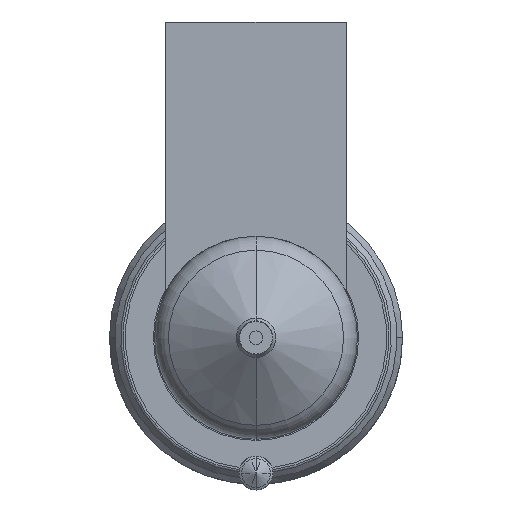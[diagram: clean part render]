
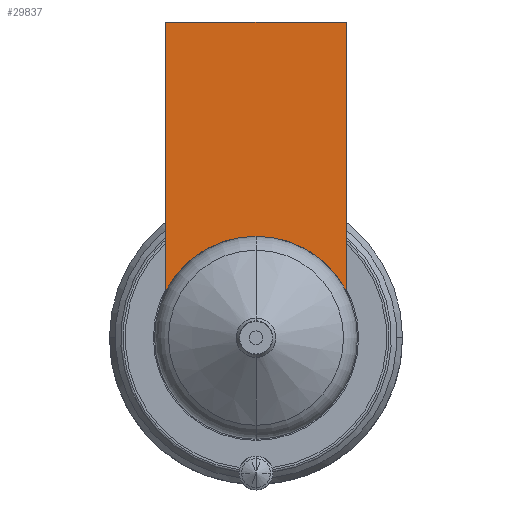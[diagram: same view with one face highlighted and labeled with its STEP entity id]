
A CAD part, front view. The second image highlights one B-rep face of the part: STEP entity #29837.
In plain terms, the highlighted planar face has unit normal (0, -1, 0).
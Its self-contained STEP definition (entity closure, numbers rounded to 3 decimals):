
#29178=DIRECTION('',(1.,0.,0.));
#29179=VECTOR('',#29178,16.);
#29180=CARTESIAN_POINT('',(-8.,-54.,28.));
#29181=LINE('',#29180,#29179);
#29186=CARTESIAN_POINT('',(0.,-54.,0.));
#29187=DIRECTION('',(0.,-1.,0.));
#29188=DIRECTION('',(0.889,0.,0.458));
#29189=AXIS2_PLACEMENT_3D('',#29186,#29187,#29188);
#29194=CARTESIAN_POINT('',(0.,-54.,0.));
#29195=DIRECTION('',(0.,-1.,0.));
#29196=DIRECTION('',(0.,0.,1.));
#29197=AXIS2_PLACEMENT_3D('',#29194,#29195,#29196);
#29223=DIRECTION('',(0.,0.,-1.));
#29224=VECTOR('',#29223,23.877);
#29225=CARTESIAN_POINT('',(-8.,-54.,28.));
#29226=LINE('',#29225,#29224);
#29709=DIRECTION('',(0.,0.,-1.));
#29710=VECTOR('',#29709,23.877);
#29711=CARTESIAN_POINT('',(8.,-54.,28.));
#29712=LINE('',#29711,#29710);
#29762=CARTESIAN_POINT('',(-8.,-54.,28.));
#29763=VERTEX_POINT('',#29762);
#29768=CARTESIAN_POINT('',(8.,-54.,28.));
#29769=VERTEX_POINT('',#29768);
#29772=CARTESIAN_POINT('',(-8.,-54.,4.123));
#29773=VERTEX_POINT('',#29772);
#29776=CARTESIAN_POINT('',(8.,-54.,4.123));
#29777=VERTEX_POINT('',#29776);
#29818=CARTESIAN_POINT('',(0.,-54.,9.));
#29819=VERTEX_POINT('',#29818);
#29820=CARTESIAN_POINT('',(0.,-54.,9.));
#29821=DIRECTION('',(0.,1.,0.));
#29822=DIRECTION('',(0.,0.,-1.));
#29823=AXIS2_PLACEMENT_3D('',#29820,#29821,#29822);
#29824=PLANE('',#29823);
#29826=ORIENTED_EDGE('',*,*,#29825,.F.);
#29828=ORIENTED_EDGE('',*,*,#29827,.T.);
#29830=ORIENTED_EDGE('',*,*,#29829,.T.);
#29832=ORIENTED_EDGE('',*,*,#29831,.T.);
#29834=ORIENTED_EDGE('',*,*,#29833,.T.);
#29835=EDGE_LOOP('',(#29826,#29828,#29830,#29832,#29834));
#29836=FACE_OUTER_BOUND('',#29835,.F.);
#29837=ADVANCED_FACE('',(#29836),#29824,.F.);
#29190=CIRCLE('',#29189,9.);
#29198=CIRCLE('',#29197,9.);
#29825=EDGE_CURVE('',#29763,#29773,#29226,.T.);
#29827=EDGE_CURVE('',#29763,#29769,#29181,.T.);
#29829=EDGE_CURVE('',#29769,#29777,#29712,.T.);
#29831=EDGE_CURVE('',#29777,#29819,#29190,.T.);
#29833=EDGE_CURVE('',#29819,#29773,#29198,.T.);
